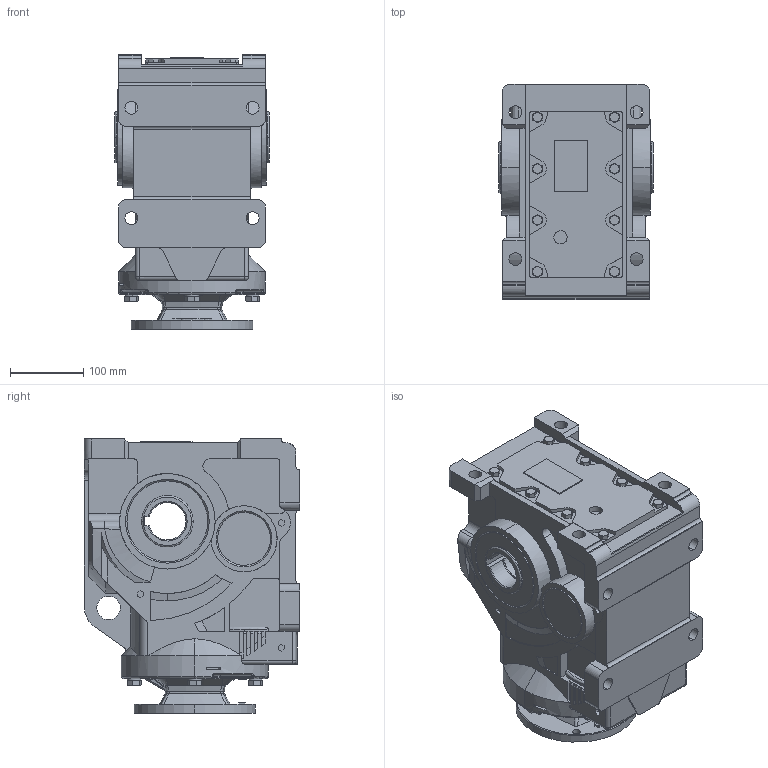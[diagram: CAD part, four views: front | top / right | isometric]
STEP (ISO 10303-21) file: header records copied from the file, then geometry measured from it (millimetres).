
FILE_DESCRIPTION (( 'STEP AP203' ), '1' );
FILE_NAME ('KHN77-143-5C.STEP', '2022-04-08T00:34:53', ( 'Microsoft' ), ( 'Microsoft' ), 'SwSTEP 2.0', 'SolidWorks 2012', '' );
FILE_SCHEMA (( 'CONFIG_CONTROL_DESIGN' ));
Length unit declared in the file: millimetre
Products named in the file (1): KHN77-143-5C
Bounding box: 210 x 293 x 373 mm (x, y, z)
Volume: 13616534.3 mm3; surface area: 580924.8 mm2
Topology: 1 solids, 25 shells, 1239 faces, 3163 edges, 2024 vertices
Faces by surface type: plane 660, cylinder 328, cone 137, bspline 92, torus 20, sphere 2
Entity records: 45048 total; most frequent: CARTESIAN_POINT 15500, ORIENTED_EDGE 6262, DIRECTION 5869, EDGE_CURVE 3131, AXIS2_PLACEMENT_3D 2032, VERTEX_POINT 2024, VECTOR 1805, LINE 1805
